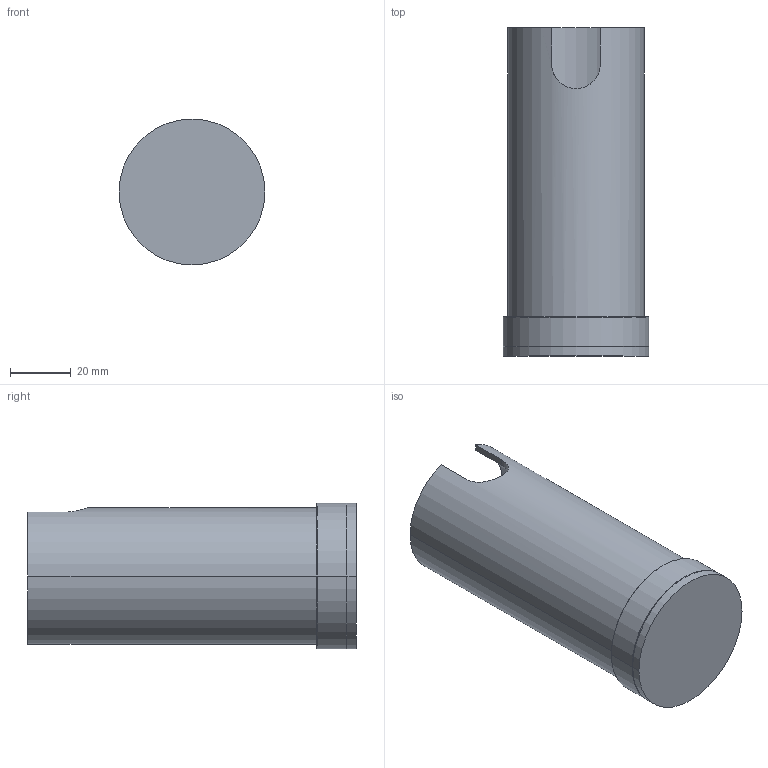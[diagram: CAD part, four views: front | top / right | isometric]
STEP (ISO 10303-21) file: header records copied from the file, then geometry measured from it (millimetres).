
FILE_DESCRIPTION (( 'STEP AP214' ), '1' );
FILE_NAME ('MIURA-E376510.STEP', '2026-01-14T12:21:49', ( '' ), ( '' ), 'SwSTEP 2.0', 'SolidWorks 2025', '' );
FILE_SCHEMA (( 'AUTOMOTIVE_DESIGN' ));
Length unit declared in the file: millimetre
Products named in the file (9): 前环.stp; 亚克力.3.stp; M3×6.1.stp; MIURA-E376510; GW-R713.stp; 预埋件.4.stp; 压线码.stp; 面盖.1.stp; 中环.stp
Assembly tree (9 placements, depth 3):
  MIURA-E376510
    GW-R713.stp
      前环.stp
      亚克力.3.stp
      中环.stp
      面盖.1.stp
      M3×6.1.stp  x2
      压线码.stp
      预埋件.4.stp
Bounding box: 48 x 108 x 48 mm (x, y, z)
Volume: 69153.7 mm3; surface area: 44531.5 mm2
Topology: 8 solids, 8 shells, 286 faces, 746 edges, 488 vertices
Faces by surface type: cylinder 163, plane 73, cone 24, torus 14, sphere 8, bspline 4
Entity records: 11386 total; most frequent: CARTESIAN_POINT 6584, ORIENTED_EDGE 1014, DIRECTION 834, EDGE_CURVE 507, AXIS2_PLACEMENT_3D 360, VERTEX_POINT 329, B_SPLINE_CURVE_WITH_KNOTS 247, EDGE_LOOP 232
